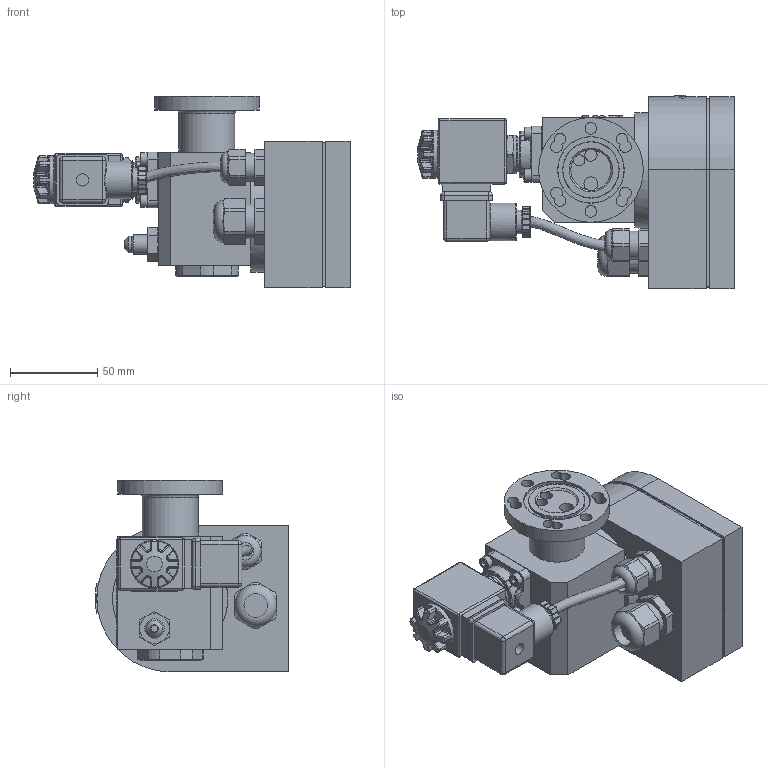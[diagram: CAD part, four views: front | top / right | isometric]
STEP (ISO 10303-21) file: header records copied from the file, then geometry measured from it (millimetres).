
FILE_DESCRIPTION(/* description */ (''),/* implementation_level */ '2;1');
FILE_NAME(/* name */ 'P:\ORE_ERM\ERM6-0-BC-R717\ERM6-0-BC-R717.stp',/* time_stamp */ '2019-03-01T10:54:49+01:00',/* author */ ('neufeld'),/* organization */ (''),/* preprocessor_version */ 'ST-DEVELOPER v17',/* originating_system */ 'Autodesk Inventor 2019',/* authorisation */ '');
FILE_SCHEMA (('AUTOMOTIVE_DESIGN { 1 0 10303 214 3 1 1 }'));
Products named in the file (1): ERM6-0-BC-R717_AG-Kunde
Bounding box: 181.11 x 111 x 109.8 mm (x, y, z)
Volume: 806813.7 mm3; surface area: 84314.4 mm2
Topology: 1 solids, 1 shells, 2018 faces, 5193 edges, 3333 vertices
Faces by surface type: plane 955, bspline 593, cylinder 245, torus 113, cone 60, sphere 52
Full cylindrical faces by diameter (mm): 4 x1, 6.4 x1, 6.7 x2, 7 x6, 8 x1, 9.1 x1, 9.4 x1, 10 x1, 10.5 x1, 11.112 x1, 13.5 x2, 16 x1, 20 x2, 20.5 x1, 21.5 x1, 22 x1, 24.2 x1, 27.5 x1, 32 x1, 32.35 x1, 37.95 x1, 60 x1, 66 x1
Entity records: 77409 total; most frequent: CARTESIAN_POINT 31215, ORIENTED_EDGE 10372, DIRECTION 7676, EDGE_CURVE 5186, VERTEX_POINT 3316, LINE 2934, VECTOR 2934, AXIS2_PLACEMENT_3D 2371
